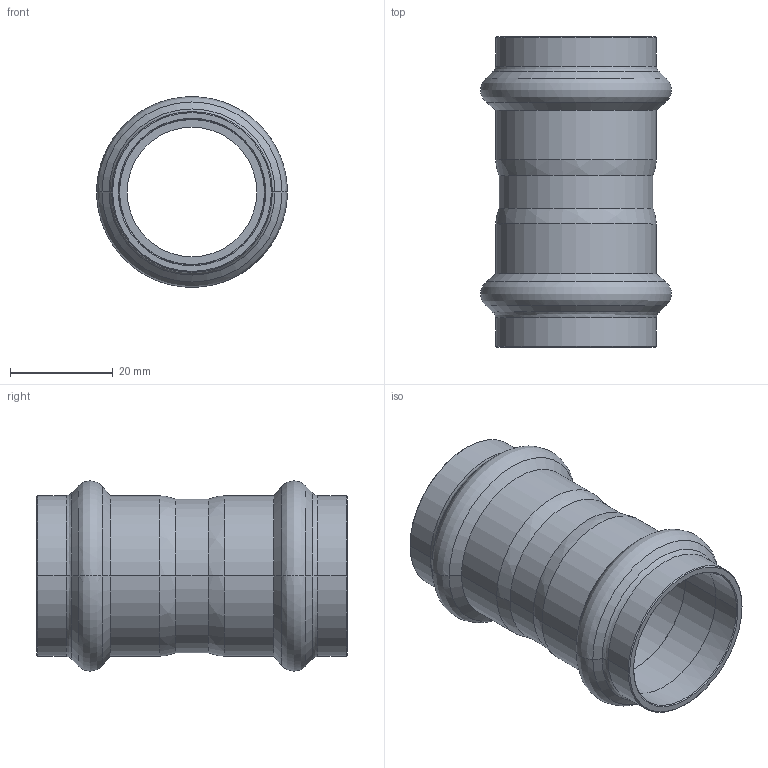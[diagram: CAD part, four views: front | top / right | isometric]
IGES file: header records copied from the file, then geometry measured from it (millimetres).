
Start section: Elysium IGES Interface
Global section: file name: C:\3d modellen sudo\C-Pr VP\SP8270V\8270VW28.igs; native system: CoCreate Modeling 17.00A  17-Jun-2010; preprocessor: CoCreate IGES_3D V2.2; author: Unknown; organization: Unknown; date: 20130129.115742; units: millimetre
Bounding box: 37.2 x 60.61 x 37.17 mm (x, y, z)
Volume: 11987.1 mm3; surface area: 12707.9 mm2
Topology: 1 solids, 1 shells, 74 faces, 156 edges, 88 vertices
Faces by surface type: bspline 74
